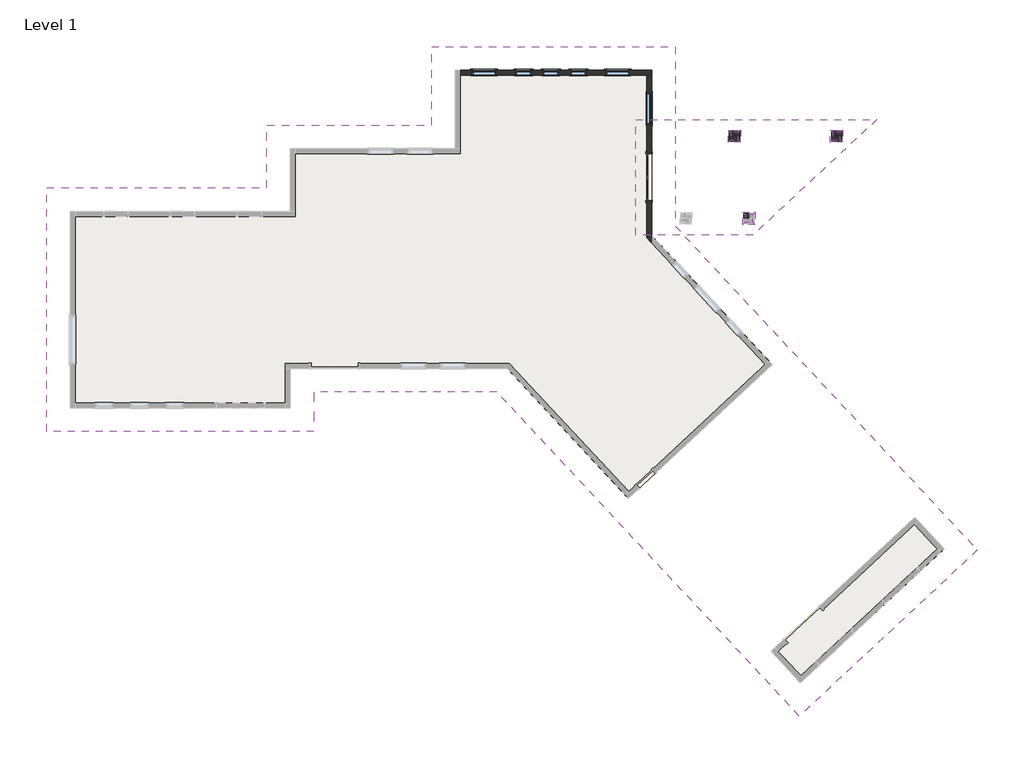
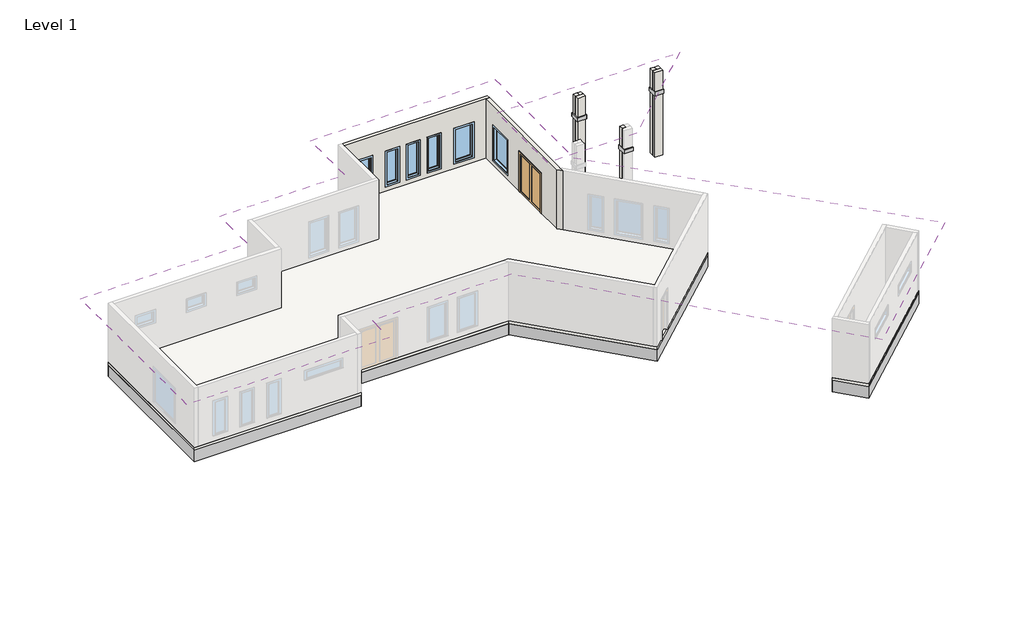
# One storey, part 2 of 2: 19 proxies, 12 walls, 6 windows, 2 roofs, 1 door, 1 slab.
"""IFC4 building model written with IfcOpenShell, lengths in millimetres."""

from ifc_helpers import new_model, si_unit, frame, origin, place, context, project, spatial, polyline, outline, extrude, faceted_brep, transform, mapped, element, save
from components import door_ae1b4af6, window_8ec664a6, window_e6bbc231, window_97fb18ba

model = new_model("IFC4")

# Units and contexts
model_context = context("Model", 3, world=origin())
ifc_project = project(units=[si_unit("LENGTHUNIT", "METRE", prefix="MILLI")], contexts=[model_context])

# Site, building, storey
site = spatial("IfcSite", under=ifc_project)
building = spatial("IfcBuilding", under=site)
storey = spatial("IfcBuildingStorey", under=building, Name="Level 1", Elevation=0.0)

# Proxies
placement = place(None, origin())
element("IfcBuildingElementProxy", 1, Name="Reveals", at=placement, inside=storey, context=model_context, shape_type="SweptSolid", body=[
    extrude(outline(polyline([(26090.8450389, 7110.4125), (26182.9200389, 7202.4875), (26478.1950389, 7202.4875), (26570.2700389, 7110.4125), (26090.8450389, 7110.4125)])), frame((0.0, 0.0, 2438.4), z_axis=(0.0, 0.0, 1.0), x_axis=(1.0, 0.0, 0.0)), (0.0, 0.0, 1.0), 203.2),
])
element("IfcBuildingElementProxy", 2, Name="Reveals", at=placement, inside=storey, context=model_context, shape_type="SweptSolid", body=[
    extrude(outline(polyline([(26570.2700389, 7110.4125), (26478.1950389, 7202.4875), (26478.1950389, 7497.7625), (26570.2700389, 7589.8375), (26570.2700389, 7110.4125)])), frame((0.0, 0.0, 2438.4), z_axis=(0.0, 0.0, 1.0), x_axis=(1.0, 0.0, 0.0)), (0.0, 0.0, 1.0), 203.2),
])
element("IfcBuildingElementProxy", 3, Name="Reveals", at=placement, inside=storey, context=model_context, shape_type="SweptSolid", body=[
    extrude(outline(polyline([(26570.2700389, 7589.8375), (26478.1950389, 7497.7625), (26182.9200389, 7497.7625), (26090.8450389, 7589.8375), (26570.2700389, 7589.8375)])), frame((0.0, 0.0, 2438.4), z_axis=(0.0, 0.0, 1.0), x_axis=(1.0, 0.0, 0.0)), (0.0, 0.0, 1.0), 203.2),
])
element("IfcBuildingElementProxy", 4, Name="Reveals", at=placement, inside=storey, context=model_context, shape_type="SweptSolid", body=[
    extrude(outline(polyline([(26182.9200389, 7202.4875), (26090.8450389, 7110.4125), (26090.8450389, 7589.8375), (26182.9200389, 7497.7625), (26182.9200389, 7202.4875)])), frame((0.0, 0.0, 2438.4), z_axis=(0.0, 0.0, 1.0), x_axis=(1.0, 0.0, 0.0)), (0.0, 0.0, 1.0), 203.2),
])
element("IfcBuildingElementProxy", 5, Name="Reveals", at=placement, inside=storey, context=model_context, shape_type="SweptSolid", body=[
    extrude(outline(polyline([(29494.5250352, 10301.2875), (29586.6000352, 10393.3625), (29881.8750352, 10393.3625), (29973.9500352, 10301.2875), (29494.5250352, 10301.2875)])), frame((0.0, 0.0, 2438.4), z_axis=(0.0, 0.0, 1.0), x_axis=(1.0, 0.0, 0.0)), (0.0, 0.0, 1.0), 203.2),
])
element("IfcBuildingElementProxy", 6, Name="Reveals", at=placement, inside=storey, context=model_context, shape_type="SweptSolid", body=[
    extrude(outline(polyline([(29973.9500352, 10301.2875), (29881.8750352, 10393.3625), (29881.8750352, 10688.6375), (29973.9500352, 10780.7125), (29973.9500352, 10301.2875)])), frame((0.0, 0.0, 2438.4), z_axis=(0.0, 0.0, 1.0), x_axis=(1.0, 0.0, 0.0)), (0.0, 0.0, 1.0), 203.2),
])
element("IfcBuildingElementProxy", 7, Name="Reveals", at=placement, inside=storey, context=model_context, shape_type="SweptSolid", body=[
    extrude(outline(polyline([(29973.9500352, 10780.7125), (29881.8750352, 10688.6375), (29586.6000352, 10688.6375), (29494.5250352, 10780.7125), (29973.9500352, 10780.7125)])), frame((0.0, 0.0, 2438.4), z_axis=(0.0, 0.0, 1.0), x_axis=(1.0, 0.0, 0.0)), (0.0, 0.0, 1.0), 203.2),
])
element("IfcBuildingElementProxy", 8, Name="Reveals", at=placement, inside=storey, context=model_context, shape_type="SweptSolid", body=[
    extrude(outline(polyline([(29586.6000352, 10393.3625), (29494.5250352, 10301.2875), (29494.5250352, 10780.7125), (29586.6000352, 10688.6375), (29586.6000352, 10393.3625)])), frame((0.0, 0.0, 2438.4), z_axis=(0.0, 0.0, 1.0), x_axis=(1.0, 0.0, 0.0)), (0.0, 0.0, 1.0), 203.2),
])
element("IfcBuildingElementProxy", 9, Name="Reveals", at=placement, inside=storey, context=model_context, shape_type="SweptSolid", body=[
    extrude(outline(polyline([(25532.1250352, 10301.2875), (25624.2000352, 10393.3625), (25919.4750352, 10393.3625), (26011.5500352, 10301.2875), (25532.1250352, 10301.2875)])), frame((0.0, 0.0, 2438.4), z_axis=(0.0, 0.0, 1.0), x_axis=(1.0, 0.0, 0.0)), (0.0, 0.0, 1.0), 203.2),
])
element("IfcBuildingElementProxy", 10, Name="Reveals", at=placement, inside=storey, context=model_context, shape_type="SweptSolid", body=[
    extrude(outline(polyline([(26011.5500352, 10301.2875), (25919.4750352, 10393.3625), (25919.4750352, 10688.6375), (26011.5500352, 10780.7125), (26011.5500352, 10301.2875)])), frame((0.0, 0.0, 2438.4), z_axis=(0.0, 0.0, 1.0), x_axis=(1.0, 0.0, 0.0)), (0.0, 0.0, 1.0), 203.2),
])
element("IfcBuildingElementProxy", 11, Name="Reveals", at=placement, inside=storey, context=model_context, shape_type="SweptSolid", body=[
    extrude(outline(polyline([(26011.5500352, 10780.7125), (25919.4750352, 10688.6375), (25624.2000352, 10688.6375), (25532.1250352, 10780.7125), (26011.5500352, 10780.7125)])), frame((0.0, 0.0, 2438.4), z_axis=(0.0, 0.0, 1.0), x_axis=(1.0, 0.0, 0.0)), (0.0, 0.0, 1.0), 203.2),
])
element("IfcBuildingElementProxy", 12, Name="Reveals", at=placement, inside=storey, context=model_context, shape_type="SweptSolid", body=[
    extrude(outline(polyline([(25624.2000352, 10393.3625), (25532.1250352, 10301.2875), (25532.1250352, 10780.7125), (25624.2000352, 10688.6375), (25624.2000352, 10393.3625)])), frame((0.0, 0.0, 2438.4), z_axis=(0.0, 0.0, 1.0), x_axis=(1.0, 0.0, 0.0)), (0.0, 0.0, 1.0), 203.2),
])
element("IfcBuildingElementProxy", 13, Name="Thickened 24\" x 12\"", ObjectType="Thickened 24\" x 12\"", at=placement, inside=storey, context=model_context, shape_type="Brep", body=[
    faceted_brep([(22555.2, 6683.5665602, -762.0), (22555.2, 6683.5665602, -152.4), (21945.6, 6443.4387342, -152.4), (22250.4, 6563.5026472, -457.2), (22250.4, 6563.5026472, -762.0), (22555.2, 13106.4, -762.0), (22250.4, 12801.6, -762.0), (22250.4, 12801.6, -457.2), (21945.6, 12496.8, -152.4), (22555.2, 13106.4, -152.4)], [[[0, 1, 2, 3, 4]], [[5, 6, 7, 8, 9]], [[1, 0, 5, 9]], [[2, 1, 9, 8]], [[4, 3, 7, 6]], [[0, 4, 6, 5]], [[3, 2, 8, 7]]]),
])
element("IfcBuildingElementProxy", 14, Name="Thickened 24\" x 12\"", ObjectType="Thickened 24\" x 12\"", at=placement, inside=storey, context=model_context, shape_type="Brep", body=[
    faceted_brep([(8534.4, 1524.0, -762.0), (8534.4, 1524.0, -152.4), (7924.8, 2133.6, -152.4), (8229.6, 1828.8, -457.2), (8229.6, 1828.8, -762.0), (16953.0353139, 1524.0, -762.0), (17085.5661258, 1828.8, -762.0), (17085.5661258, 1828.8, -457.2), (17218.0969376, 2133.6, -152.4), (16953.0353139, 1524.0, -152.4)], [[[0, 1, 2, 3, 4]], [[5, 6, 7, 8, 9]], [[1, 0, 5, 9]], [[2, 1, 9, 8]], [[3, 2, 8, 7]], [[4, 3, 7, 6]], [[0, 4, 6, 5]]]),
    faceted_brep([(8534.4, 0.0, -762.0), (8229.6, 304.8, -762.0), (8229.6, 304.8, -457.2), (7924.8, 609.6, -152.4), (8534.4, 0.0, -152.4), (0.0, 0.0, -152.4), (0.0, 0.0, -762.0), (609.6, 609.6, -152.4), (304.8, 304.8, -457.2), (304.8, 304.8, -762.0), (0.0, 7620.0, -762.0), (0.0, 7620.0, -152.4), (609.6, 7010.4, -152.4), (304.8, 7315.2, -457.2), (304.8, 7315.2, -762.0)], [[[0, 1, 2, 3, 4]], [[5, 6, 0, 4]], [[7, 5, 4, 3]], [[8, 7, 3, 2]], [[9, 8, 2, 1]], [[6, 9, 1, 0]], [[10, 11, 12, 13, 14]], [[11, 10, 6, 5]], [[12, 11, 5, 7]], [[13, 12, 7, 8]], [[14, 13, 8, 9]], [[10, 14, 9, 6]]]),
])
element("IfcBuildingElementProxy", 15, Name="Thickened 24\" x 12\"", ObjectType="Thickened 24\" x 12\"", at=placement, inside=storey, context=model_context, shape_type="Brep", body=[
    faceted_brep([(8534.4, 0.0, -762.0), (8534.4, 0.0, -152.4), (7924.8, 609.6, -152.4), (8229.6, 304.8, -457.2), (8229.6, 304.8, -762.0), (8534.4, 1524.0, -762.0), (8229.6, 1828.8, -762.0), (8229.6, 1828.8, -457.2), (7924.8, 2133.6, -152.4), (8534.4, 1524.0, -152.4)], [[[0, 1, 2, 3, 4]], [[5, 6, 7, 8, 9]], [[1, 0, 5, 9]], [[2, 1, 9, 8]], [[3, 2, 8, 7]], [[4, 3, 7, 6]], [[0, 4, 6, 5]]]),
])
element("IfcBuildingElementProxy", 16, Name="Thickened 24\" x 12\"", ObjectType="Thickened 24\" x 12\"", at=placement, inside=storey, context=model_context, shape_type="Brep", body=[
    faceted_brep([(22555.2, 13106.4, -762.0), (22555.2, 13106.4, -152.4), (21945.6, 12496.8, -152.4), (22250.4, 12801.6, -457.2), (22250.4, 12801.6, -762.0), (14935.2, 13106.4, -762.0), (14935.2, 13106.4, -152.4), (15544.8, 12496.8, -152.4), (15240.0, 12801.6, -457.2), (15240.0, 12801.6, -762.0), (14935.2, 10058.4, -762.0), (14935.2, 10058.4, -152.4), (15544.8, 9448.8, -152.4), (15240.0, 9753.6, -457.2), (15240.0, 9753.6, -762.0), (8534.4, 10058.4, -762.0), (8534.4, 10058.4, -152.4), (9144.0, 9448.8, -152.4), (8839.2, 9753.6, -457.2), (8839.2, 9753.6, -762.0), (8534.4, 7620.0, -762.0), (8534.4, 7620.0, -152.4), (9144.0, 7010.4, -152.4), (8839.2, 7315.2, -457.2), (8839.2, 7315.2, -762.0), (0.0, 7620.0, -762.0), (304.8, 7315.2, -762.0), (304.8, 7315.2, -457.2), (609.6, 7010.4, -152.4), (0.0, 7620.0, -152.4)], [[[0, 1, 2, 3, 4]], [[1, 0, 5, 6]], [[2, 1, 6, 7]], [[3, 2, 7, 8]], [[4, 3, 8, 9]], [[0, 4, 9, 5]], [[6, 5, 10, 11]], [[7, 6, 11, 12]], [[8, 7, 12, 13]], [[9, 8, 13, 14]], [[5, 9, 14, 10]], [[11, 10, 15, 16]], [[12, 11, 16, 17]], [[13, 12, 17, 18]], [[14, 13, 18, 19]], [[10, 14, 19, 15]], [[16, 15, 20, 21]], [[17, 16, 21, 22]], [[18, 17, 22, 23]], [[19, 18, 23, 24]], [[15, 19, 24, 20]], [[25, 26, 27, 28, 29]], [[21, 20, 25, 29]], [[22, 21, 29, 28]], [[23, 22, 28, 27]], [[24, 23, 27, 26]], [[20, 24, 26, 25]]]),
])
element("IfcBuildingElementProxy", 17, Name="Thickened 24\" x 12\"", ObjectType="Thickened 24\" x 12\"", at=placement, inside=storey, context=model_context, shape_type="Brep", body=[
    faceted_brep([(33900.9652465, -5483.2770815, -762.0), (33900.9652465, -5483.2770815, -152.4), (33039.3858297, -5453.1900653, -152.4), (33470.1755381, -5468.2335734, -457.2), (33470.1755381, -5468.2335734, -762.0), (32758.3596644, -4257.9826073, -762.0), (32758.3596644, -4257.9826073, -152.4), (32728.2726482, -5119.5620241, -152.4), (32743.3161563, -4688.7723157, -457.2), (32743.3161563, -4688.7723157, -762.0), (27188.3846368, -9452.06835, -762.0), (27619.1743452, -9467.1118582, -762.0), (27619.1743452, -9467.1118582, -457.2), (28049.9640536, -9482.1553663, -152.4), (27188.3846368, -9452.06835, -152.4)], [[[0, 1, 2, 3, 4]], [[1, 0, 5, 6]], [[2, 1, 6, 7]], [[3, 2, 7, 8]], [[4, 3, 8, 9]], [[0, 4, 9, 5]], [[10, 11, 12, 13, 14]], [[6, 5, 10, 14]], [[7, 6, 14, 13]], [[8, 7, 13, 12]], [[9, 8, 12, 11]], [[5, 9, 11, 10]]]),
])
element("IfcBuildingElementProxy", 18, Name="Thickened 24\" x 12\"", ObjectType="Thickened 24\" x 12\"", at=placement, inside=storey, context=model_context, shape_type="Brep", body=[
    faceted_brep([(27188.3846368, -9452.06835, -762.0), (27188.3846368, -9452.06835, -152.4), (28049.9640536, -9482.1553663, -152.4), (27619.1743452, -9467.1118582, -457.2), (27619.1743452, -9467.1118582, -762.0), (28330.9902189, -10677.3628242, -762.0), (28330.9902189, -10677.3628242, -152.4), (28361.0772351, -9815.7834074, -152.4), (28346.033727, -10246.5731158, -457.2), (28346.033727, -10246.5731158, -762.0), (33900.9652465, -5483.2770815, -762.0), (33470.1755381, -5468.2335734, -762.0), (33470.1755381, -5468.2335734, -457.2), (33039.3858297, -5453.1900653, -152.4), (33900.9652465, -5483.2770815, -152.4)], [[[0, 1, 2, 3, 4]], [[1, 0, 5, 6]], [[2, 1, 6, 7]], [[3, 2, 7, 8]], [[4, 3, 8, 9]], [[0, 4, 9, 5]], [[10, 11, 12, 13, 14]], [[6, 5, 10, 14]], [[7, 6, 14, 13]], [[8, 7, 13, 12]], [[9, 8, 12, 11]], [[5, 9, 11, 10]]]),
])
element("IfcBuildingElementProxy", 19, Name="Thickened 24\" x 12\"", ObjectType="Thickened 24\" x 12\"", at=placement, inside=storey, context=model_context, shape_type="Brep", body=[
    faceted_brep([(22555.2, 6683.5665602, -762.0), (22250.4, 6563.5026472, -762.0), (22250.4, 6563.5026472, -457.2), (21945.6, 6443.4387342, -152.4), (22555.2, 6683.5665602, -152.4), (27229.4045746, 1671.0958301, -152.4), (27229.4045746, 1671.0958301, -762.0), (26367.8251578, 1701.1828463, -152.4), (26798.6148662, 1686.1393382, -457.2), (26798.6148662, 1686.1393382, -762.0), (21659.429547, -3522.9899126, -152.4), (21659.429547, -3522.9899126, -762.0), (21689.5165632, -2661.4104958, -152.4), (21674.4730551, -3092.2002042, -457.2), (21674.4730551, -3092.2002042, -762.0), (16953.0353139, 1524.0, -762.0), (16953.0353139, 1524.0, -152.4), (17218.0969376, 2133.6, -152.4), (17085.5661258, 1828.8, -457.2), (17085.5661258, 1828.8, -762.0)], [[[0, 1, 2, 3, 4]], [[5, 6, 0, 4]], [[7, 5, 4, 3]], [[8, 7, 3, 2]], [[9, 8, 2, 1]], [[6, 9, 1, 0]], [[10, 11, 6, 5]], [[12, 10, 5, 7]], [[13, 12, 7, 8]], [[14, 13, 8, 9]], [[11, 14, 9, 6]], [[15, 16, 17, 18, 19]], [[16, 15, 11, 10]], [[17, 16, 10, 12]], [[18, 17, 12, 13]], [[19, 18, 13, 14]], [[15, 19, 14, 11]]]),
])

# Door
door_shape = door_ae1b4af6(model_context)
element("IfcDoor", 20, ObjectType="Double-Glass 1 : 72\" x 84\"", at=placement, inside=storey, context=model_context, shape_type="MappedRepresentation", body=[
    mapped(door_shape, transform((22460.74375, 8945.5625, 0.0), x_axis=(0.0, 1.0, 0.0), y_axis=(-1.0, 0.0, 0.0), z_axis=(0.0, 0.0, 1.0))),
])

# Roofs
element("IfcRoof", 21, ObjectType="Generic - 12\"", at=placement, inside=storey, context=model_context, shape_type="SweptSolid", body=[
    extrude(outline(polyline([(16555.4428782, 609.6), (9448.8, 609.6), (9448.8, -914.4), (-914.4, -914.4), (-914.4, 8534.4), (7620.0, 8534.4), (7620.0, 10972.8), (14020.8, 10972.8), (14020.8, 14020.8), (23469.6, 14020.8), (23469.6, 7049.6530157), (35196.2745504, -5525.6658448), (28285.8596945, -11969.7319494), (16555.4428782, 609.6)])), frame((0.0, 0.0, 3200.4), z_axis=(0.0, 0.0, 1.0), x_axis=(1.0, 0.0, 0.0)), (0.0, 0.0, 1.0), 304.8),
])
element("IfcRoof", 22, ObjectType="Generic - 12\"", at=placement, inside=storey, context=model_context, shape_type="SweptSolid", body=[
    extrude(outline(polyline([(21945.6, 6710.2825037), (21945.6, 11180.8424963), (31288.3056898, 11180.8424963), (26494.2170375, 6710.2825037), (21945.6, 6710.2825037)])), frame((0.0, 0.0, 3657.6), z_axis=(0.0, 0.0, 1.0), x_axis=(1.0, 0.0, 0.0)), (0.0, 0.0, 1.0), 304.8),
])

# Slab
element("IfcSlab", 23, ObjectType="Concrete - 6\"", at=placement, inside=storey, context=model_context, shape_type="SweptSolid", body=[
    extrude(outline(polyline([(16953.0353139, 1524.0), (8534.4, 1524.0), (8534.4, 0.0), (0.0, 0.0), (0.0, 7620.0), (8534.4, 7620.0), (8534.4, 10058.4), (14935.2, 10058.4), (14935.2, 13106.4), (22555.2, 13106.4), (22555.2, 6683.5665602), (27229.4045746, 1671.0958301), (21659.429547, -3522.9899126), (16953.0353139, 1524.0)])), frame((0.0, 0.0, -152.4), z_axis=(0.0, 0.0, 1.0), x_axis=(1.0, 0.0, 0.0)), (0.0, 0.0, 1.0), 152.4),
    extrude(outline(polyline([(27188.3846368, -9452.06835), (32758.3596644, -4257.9826073), (33900.9652465, -5483.2770815), (28330.9902189, -10677.3628242), (27188.3846368, -9452.06835)])), frame((0.0, 0.0, -152.4), z_axis=(0.0, 0.0, 1.0), x_axis=(1.0, 0.0, 0.0)), (0.0, 0.0, 1.0), 152.4),
])

# Walls
element("IfcWall", 24, ObjectType="Column - 8\" Concrete", at=placement, inside=storey, context=model_context, shape_type="Brep", body=[
    faceted_brep([(26335.3200389, 7548.5625, -914.4), (26132.1200389, 7548.5625, -914.4), (26132.1200389, 7548.5625, 2438.4), (26335.3200389, 7548.5625, 2438.4), (26132.1200389, 7548.5625, 3657.6), (26335.3200389, 7548.5625, 3657.6), (26335.3200389, 7548.5625, 2641.6), (26132.1200389, 7548.5625, 2641.6), (26132.1200389, 7354.8875, -914.4), (26325.7950389, 7354.8875, -914.4), (26335.3200389, 7354.8875, -914.4), (26335.3200389, 7354.8875, 3657.6), (26325.7950389, 7354.8875, 3657.6), (26132.1200389, 7354.8875, 3657.6), (26132.1200389, 7354.8875, 2641.6), (26182.9200389, 7354.8875, 2641.6), (26182.9200389, 7354.8875, 2438.4), (26132.1200389, 7354.8875, 2438.4), (26335.3200389, 7497.7625, 2438.4), (26335.3200389, 7497.7625, 2641.6), (26182.9200389, 7497.7625, 2641.6), (26182.9200389, 7497.7625, 2438.4)], [[[0, 1, 2, 3]], [[4, 5, 6, 7]], [[8, 9, 10, 11, 12, 13, 14, 15, 16, 17]], [[1, 0, 10, 9, 8]], [[11, 10, 0, 3, 18, 19, 6, 5]], [[19, 20, 15, 14, 7, 6]], [[16, 21, 18, 3, 2, 17]], [[21, 20, 19, 18]], [[1, 8, 17, 2]], [[13, 4, 7, 14]], [[20, 21, 16, 15]], [[5, 4, 13, 12, 11]]]),
])
element("IfcWall", 25, ObjectType="Column - 8\" Concrete", at=placement, inside=storey, context=model_context, shape_type="SweptSolid", body=[
    extrude(outline(polyline([(-914.4, 26325.7950389), (3657.6, 26325.7950389), (3657.6, 26132.1200389), (2641.6, 26132.1200389), (2641.6, 26182.9200389), (2438.4, 26182.9200389), (2438.4, 26132.1200389), (-914.4, 26132.1200389), (-914.4, 26325.7950389)])), frame((0.0, 7345.3625, 0.0), z_axis=(0.0, 1.0, 0.0), x_axis=(0.0, 0.0, 1.0)), (0.0, 0.0, 1.0), 9.525),
])
element("IfcWall", 26, ObjectType="Column - 8\" Concrete", at=placement, inside=storey, context=model_context, shape_type="Brep", body=[
    faceted_brep([(29535.8000352, 10342.5625, -914.4), (29932.6750352, 10342.5625, -914.4), (29932.6750352, 10342.5625, 2438.4), (29535.8000352, 10342.5625, 2438.4), (29932.6750352, 10342.5625, 3657.6), (29535.8000352, 10342.5625, 3657.6), (29535.8000352, 10342.5625, 2641.6), (29932.6750352, 10342.5625, 2641.6), (29932.6750352, 10536.2375, -914.4), (29739.0000352, 10536.2375, -914.4), (29729.4750352, 10536.2375, -914.4), (29535.8000352, 10536.2375, -914.4), (29535.8000352, 10536.2375, 2438.4), (29586.6000352, 10536.2375, 2438.4), (29586.6000352, 10536.2375, 2641.6), (29535.8000352, 10536.2375, 2641.6), (29535.8000352, 10536.2375, 3657.6), (29729.4750352, 10536.2375, 3657.6), (29739.0000352, 10536.2375, 3657.6), (29932.6750352, 10536.2375, 3657.6), (29932.6750352, 10536.2375, 2641.6), (29881.8750352, 10536.2375, 2641.6), (29881.8750352, 10536.2375, 2438.4), (29932.6750352, 10536.2375, 2438.4), (29586.6000352, 10393.3625, 2641.6), (29586.6000352, 10393.3625, 2438.4), (29881.8750352, 10393.3625, 2438.4), (29881.8750352, 10393.3625, 2641.6)], [[[0, 1, 2, 3]], [[4, 5, 6, 7]], [[8, 9, 10, 11, 12, 13, 14, 15, 16, 17, 18, 19, 20, 21, 22, 23]], [[1, 0, 11, 10, 9, 8]], [[1, 8, 23, 2]], [[19, 4, 7, 20]], [[24, 25, 26, 27]], [[27, 26, 22, 21]], [[11, 0, 3, 12]], [[5, 16, 15, 6]], [[24, 27, 21, 20, 7, 6, 15, 14]], [[26, 25, 13, 12, 3, 2, 23, 22]], [[25, 24, 14, 13]], [[5, 4, 19, 18, 17, 16]]]),
])
element("IfcWall", 27, ObjectType="Column - 8\" Concrete", at=placement, inside=storey, context=model_context, shape_type="Brep", body=[
    faceted_brep([(29932.6750352, 10536.2375, -914.4), (29932.6750352, 10739.4375, -914.4), (29932.6750352, 10739.4375, 2438.4), (29932.6750352, 10536.2375, 2438.4), (29932.6750352, 10739.4375, 3657.6), (29932.6750352, 10536.2375, 3657.6), (29932.6750352, 10536.2375, 2641.6), (29932.6750352, 10739.4375, 2641.6), (29739.0000352, 10739.4375, -914.4), (29739.0000352, 10545.7625, -914.4), (29739.0000352, 10536.2375, -914.4), (29739.0000352, 10536.2375, 3657.6), (29739.0000352, 10545.7625, 3657.6), (29739.0000352, 10739.4375, 3657.6), (29739.0000352, 10739.4375, 2641.6), (29739.0000352, 10688.6375, 2641.6), (29739.0000352, 10688.6375, 2438.4), (29739.0000352, 10739.4375, 2438.4), (29881.8750352, 10536.2375, 2438.4), (29881.8750352, 10536.2375, 2641.6), (29881.8750352, 10688.6375, 2641.6), (29881.8750352, 10688.6375, 2438.4)], [[[0, 1, 2, 3]], [[4, 5, 6, 7]], [[8, 9, 10, 11, 12, 13, 14, 15, 16, 17]], [[1, 0, 10, 9, 8]], [[11, 10, 0, 3, 18, 19, 6, 5]], [[1, 8, 17, 2]], [[13, 4, 7, 14]], [[19, 20, 15, 14, 7, 6]], [[16, 21, 18, 3, 2, 17]], [[21, 20, 19, 18]], [[20, 21, 16, 15]], [[5, 4, 13, 12, 11]]]),
])
element("IfcWall", 28, ObjectType="Column - 8\" Concrete", at=placement, inside=storey, context=model_context, shape_type="Brep", body=[
    faceted_brep([(29739.0000352, 10739.4375, -914.4), (29535.8000352, 10739.4375, -914.4), (29535.8000352, 10739.4375, 2438.4), (29739.0000352, 10739.4375, 2438.4), (29535.8000352, 10739.4375, 3657.6), (29739.0000352, 10739.4375, 3657.6), (29739.0000352, 10739.4375, 2641.6), (29535.8000352, 10739.4375, 2641.6), (29535.8000352, 10545.7625, -914.4), (29729.4750352, 10545.7625, -914.4), (29739.0000352, 10545.7625, -914.4), (29739.0000352, 10545.7625, 3657.6), (29729.4750352, 10545.7625, 3657.6), (29535.8000352, 10545.7625, 3657.6), (29535.8000352, 10545.7625, 2641.6), (29586.6000352, 10545.7625, 2641.6), (29586.6000352, 10545.7625, 2438.4), (29535.8000352, 10545.7625, 2438.4), (29739.0000352, 10688.6375, 2438.4), (29739.0000352, 10688.6375, 2641.6), (29586.6000352, 10688.6375, 2641.6), (29586.6000352, 10688.6375, 2438.4)], [[[0, 1, 2, 3]], [[4, 5, 6, 7]], [[8, 9, 10, 11, 12, 13, 14, 15, 16, 17]], [[1, 0, 10, 9, 8]], [[11, 10, 0, 3, 18, 19, 6, 5]], [[19, 20, 15, 14, 7, 6]], [[16, 21, 18, 3, 2, 17]], [[21, 20, 19, 18]], [[1, 8, 17, 2]], [[13, 4, 7, 14]], [[20, 21, 16, 15]], [[5, 4, 13, 12, 11]]]),
])
element("IfcWall", 29, ObjectType="Column - 8\" Concrete", at=placement, inside=storey, context=model_context, shape_type="SweptSolid", body=[
    extrude(outline(polyline([(-914.4, 29729.4750352), (3657.6, 29729.4750352), (3657.6, 29535.8000352), (2641.6, 29535.8000352), (2641.6, 29586.6000352), (2438.4, 29586.6000352), (2438.4, 29535.8000352), (-914.4, 29535.8000352), (-914.4, 29729.4750352)])), frame((0.0, 10536.2375, 0.0), z_axis=(0.0, 1.0, 0.0), x_axis=(0.0, 0.0, 1.0)), (0.0, 0.0, 1.0), 9.525),
])
element("IfcWall", 30, ObjectType="Column - 8\" Concrete", at=placement, inside=storey, context=model_context, shape_type="Brep", body=[
    faceted_brep([(25573.4000352, 10342.5625, -914.4), (25970.2750352, 10342.5625, -914.4), (25970.2750352, 10342.5625, 2438.4), (25573.4000352, 10342.5625, 2438.4), (25970.2750352, 10342.5625, 3657.6), (25573.4000352, 10342.5625, 3657.6), (25573.4000352, 10342.5625, 2641.6), (25970.2750352, 10342.5625, 2641.6), (25970.2750352, 10536.2375, -914.4), (25776.6000352, 10536.2375, -914.4), (25767.0750352, 10536.2375, -914.4), (25573.4000352, 10536.2375, -914.4), (25573.4000352, 10536.2375, 2438.4), (25624.2000352, 10536.2375, 2438.4), (25624.2000352, 10536.2375, 2641.6), (25573.4000352, 10536.2375, 2641.6), (25573.4000352, 10536.2375, 3657.6), (25767.0750352, 10536.2375, 3657.6), (25776.6000352, 10536.2375, 3657.6), (25970.2750352, 10536.2375, 3657.6), (25970.2750352, 10536.2375, 2641.6), (25919.4750352, 10536.2375, 2641.6), (25919.4750352, 10536.2375, 2438.4), (25970.2750352, 10536.2375, 2438.4), (25624.2000352, 10393.3625, 2641.6), (25624.2000352, 10393.3625, 2438.4), (25919.4750352, 10393.3625, 2438.4), (25919.4750352, 10393.3625, 2641.6)], [[[0, 1, 2, 3]], [[4, 5, 6, 7]], [[8, 9, 10, 11, 12, 13, 14, 15, 16, 17, 18, 19, 20, 21, 22, 23]], [[1, 0, 11, 10, 9, 8]], [[1, 8, 23, 2]], [[19, 4, 7, 20]], [[24, 25, 26, 27]], [[27, 26, 22, 21]], [[11, 0, 3, 12]], [[5, 16, 15, 6]], [[24, 27, 21, 20, 7, 6, 15, 14]], [[26, 25, 13, 12, 3, 2, 23, 22]], [[25, 24, 14, 13]], [[5, 4, 19, 18, 17, 16]]]),
])
element("IfcWall", 31, ObjectType="Column - 8\" Concrete", at=placement, inside=storey, context=model_context, shape_type="Brep", body=[
    faceted_brep([(25970.2750352, 10536.2375, -914.4), (25970.2750352, 10739.4375, -914.4), (25970.2750352, 10739.4375, 2438.4), (25970.2750352, 10536.2375, 2438.4), (25970.2750352, 10739.4375, 3657.6), (25970.2750352, 10536.2375, 3657.6), (25970.2750352, 10536.2375, 2641.6), (25970.2750352, 10739.4375, 2641.6), (25776.6000352, 10739.4375, -914.4), (25776.6000352, 10545.7625, -914.4), (25776.6000352, 10536.2375, -914.4), (25776.6000352, 10536.2375, 3657.6), (25776.6000352, 10545.7625, 3657.6), (25776.6000352, 10739.4375, 3657.6), (25776.6000352, 10739.4375, 2641.6), (25776.6000352, 10688.6375, 2641.6), (25776.6000352, 10688.6375, 2438.4), (25776.6000352, 10739.4375, 2438.4), (25919.4750352, 10536.2375, 2438.4), (25919.4750352, 10536.2375, 2641.6), (25919.4750352, 10688.6375, 2641.6), (25919.4750352, 10688.6375, 2438.4)], [[[0, 1, 2, 3]], [[4, 5, 6, 7]], [[8, 9, 10, 11, 12, 13, 14, 15, 16, 17]], [[1, 0, 10, 9, 8]], [[11, 10, 0, 3, 18, 19, 6, 5]], [[1, 8, 17, 2]], [[13, 4, 7, 14]], [[19, 20, 15, 14, 7, 6]], [[16, 21, 18, 3, 2, 17]], [[21, 20, 19, 18]], [[20, 21, 16, 15]], [[5, 4, 13, 12, 11]]]),
])
element("IfcWall", 32, ObjectType="Column - 8\" Concrete", at=placement, inside=storey, context=model_context, shape_type="Brep", body=[
    faceted_brep([(25776.6000352, 10739.4375, -914.4), (25573.4000352, 10739.4375, -914.4), (25573.4000352, 10739.4375, 2438.4), (25776.6000352, 10739.4375, 2438.4), (25573.4000352, 10739.4375, 3657.6), (25776.6000352, 10739.4375, 3657.6), (25776.6000352, 10739.4375, 2641.6), (25573.4000352, 10739.4375, 2641.6), (25573.4000352, 10545.7625, -914.4), (25767.0750352, 10545.7625, -914.4), (25776.6000352, 10545.7625, -914.4), (25776.6000352, 10545.7625, 3657.6), (25767.0750352, 10545.7625, 3657.6), (25573.4000352, 10545.7625, 3657.6), (25573.4000352, 10545.7625, 2641.6), (25624.2000352, 10545.7625, 2641.6), (25624.2000352, 10545.7625, 2438.4), (25573.4000352, 10545.7625, 2438.4), (25776.6000352, 10688.6375, 2438.4), (25776.6000352, 10688.6375, 2641.6), (25624.2000352, 10688.6375, 2641.6), (25624.2000352, 10688.6375, 2438.4)], [[[0, 1, 2, 3]], [[4, 5, 6, 7]], [[8, 9, 10, 11, 12, 13, 14, 15, 16, 17]], [[1, 0, 10, 9, 8]], [[11, 10, 0, 3, 18, 19, 6, 5]], [[19, 20, 15, 14, 7, 6]], [[16, 21, 18, 3, 2, 17]], [[21, 20, 19, 18]], [[1, 8, 17, 2]], [[13, 4, 7, 14]], [[20, 21, 16, 15]], [[5, 4, 13, 12, 11]]]),
])
element("IfcWall", 33, ObjectType="Column - 8\" Concrete", at=placement, inside=storey, context=model_context, shape_type="SweptSolid", body=[
    extrude(outline(polyline([(-914.4, 25767.0750352), (3657.6, 25767.0750352), (3657.6, 25573.4000352), (2641.6, 25573.4000352), (2641.6, 25624.2000352), (2438.4, 25624.2000352), (2438.4, 25573.4000352), (-914.4, 25573.4000352), (-914.4, 25767.0750352)])), frame((0.0, 10536.2375, 0.0), z_axis=(0.0, 1.0, 0.0), x_axis=(0.0, 0.0, 1.0)), (0.0, 0.0, 1.0), 9.525),
])
element("IfcWall", 34, ObjectType="Generic - 8\" Concrete", at=placement, inside=storey, context=model_context, shape_type="Brep", body=[
    faceted_brep([(15128.875, 12912.725, 0.0), (22361.525, 12912.725, 0.0), (22555.2, 12912.725, 0.0), (22555.2, 12912.725, 3200.4), (22361.525, 12912.725, 3200.4), (15128.875, 12912.725, 3200.4), (16514.7625, 12912.725, 2133.6), (16514.7625, 12912.725, 304.8), (15600.3625, 12912.725, 304.8), (15600.3625, 12912.725, 2133.6), (21696.3625, 12912.725, 2133.6), (21696.3625, 12912.725, 304.8), (20781.9625, 12912.725, 304.8), (20781.9625, 12912.725, 2133.6), (20019.9625, 12912.725, 2133.6), (20019.9625, 12912.725, 304.8), (19410.3625, 12912.725, 304.8), (19410.3625, 12912.725, 2133.6), (17886.3625, 12912.725, 2133.6), (17886.3625, 12912.725, 304.8), (17276.7625, 12912.725, 304.8), (17276.7625, 12912.725, 2133.6), (18953.1625, 12912.725, 2133.6), (18953.1625, 12912.725, 304.8), (18343.5625, 12912.725, 304.8), (18343.5625, 12912.725, 2133.6), (22555.2, 13106.4, 0.0), (15128.875, 13106.4, 0.0), (15128.875, 13106.4, 3200.4), (22555.2, 13106.4, 3200.4), (16514.7625, 13106.4, 2133.6), (15600.3625, 13106.4, 2133.6), (15600.3625, 13106.4, 304.8), (16514.7625, 13106.4, 304.8), (21696.3625, 13106.4, 304.8), (21696.3625, 13106.4, 2133.6), (20781.9625, 13106.4, 2133.6), (20781.9625, 13106.4, 304.8), (20019.9625, 13106.4, 304.8), (20019.9625, 13106.4, 2133.6), (19410.3625, 13106.4, 2133.6), (19410.3625, 13106.4, 304.8), (17886.3625, 13106.4, 304.8), (17886.3625, 13106.4, 2133.6), (17276.7625, 13106.4, 2133.6), (17276.7625, 13106.4, 304.8), (18953.1625, 13106.4, 304.8), (18953.1625, 13106.4, 2133.6), (18343.5625, 13106.4, 2133.6), (18343.5625, 13106.4, 304.8)], [[[0, 1, 2, 3, 4, 5], [6, 7, 8, 9], [10, 11, 12, 13], [14, 15, 16, 17], [18, 19, 20, 21], [22, 23, 24, 25]], [[26, 27, 28, 29], [30, 31, 32, 33], [34, 35, 36, 37], [38, 39, 40, 41], [42, 43, 44, 45], [46, 47, 48, 49]], [[2, 1, 0, 27, 26]], [[0, 5, 28, 27]], [[3, 2, 26, 29]], [[7, 6, 30, 33]], [[8, 7, 33, 32]], [[9, 8, 32, 31]], [[6, 9, 31, 30]], [[11, 10, 35, 34]], [[12, 11, 34, 37]], [[13, 12, 37, 36]], [[10, 13, 36, 35]], [[15, 14, 39, 38]], [[16, 15, 38, 41]], [[17, 16, 41, 40]], [[14, 17, 40, 39]], [[19, 18, 43, 42]], [[20, 19, 42, 45]], [[21, 20, 45, 44]], [[18, 21, 44, 43]], [[22, 47, 46, 23]], [[23, 46, 49, 24]], [[24, 49, 48, 25]], [[47, 22, 25, 48]], [[5, 4, 3, 29, 28]]]),
])
element("IfcWall", 35, ObjectType="Generic - 8\" Concrete", at=placement, inside=storey, context=model_context, shape_type="Brep", body=[
    faceted_brep([(22361.525, 12912.725, 3200.4), (22361.525, 12912.725, 0.0), (22361.525, 9859.9625, 0.0), (22361.525, 9859.9625, 2133.6), (22361.525, 8031.1625, 2133.6), (22361.525, 8031.1625, 0.0), (22361.525, 6607.2759488, 0.0), (22361.525, 6607.2759488, 3200.4), (22361.525, 12222.1625, 2133.6), (22361.525, 11002.9625, 2133.6), (22361.525, 11002.9625, 304.8), (22361.525, 12222.1625, 304.8), (22555.2, 12912.725, 0.0), (22555.2, 12912.725, 3200.4), (22555.2, 6683.5665602, 3200.4), (22555.2, 6399.5849389, 3200.4), (22555.2, 6399.5849389, 0.0), (22555.2, 6683.5665602, 0.0), (22555.2, 8031.1625, 0.0), (22555.2, 8031.1625, 2133.6), (22555.2, 9859.9625, 2133.6), (22555.2, 9859.9625, 0.0), (22555.2, 12222.1625, 2133.6), (22555.2, 12222.1625, 304.8), (22555.2, 11002.9625, 304.8), (22555.2, 11002.9625, 2133.6)], [[[0, 1, 2, 3, 4, 5, 6, 7], [8, 9, 10, 11]], [[12, 13, 14, 15, 16, 17, 18, 19, 20, 21], [22, 23, 24, 25]], [[1, 12, 21, 2]], [[16, 6, 5, 18, 17]], [[1, 0, 13, 12]], [[20, 3, 2, 21]], [[3, 20, 19, 4]], [[4, 19, 18, 5]], [[0, 7, 15, 14, 13]], [[23, 22, 8, 11]], [[24, 23, 11, 10]], [[25, 24, 10, 9]], [[22, 25, 9, 8]], [[7, 6, 16, 15]]]),
])

# Windows
window_shape = window_8ec664a6(model_context)
element("IfcWindow", 36, ObjectType="Casement with Trim : 24\" x 72\"", at=placement, inside=storey, context=model_context, shape_type="MappedRepresentation", body=[
    mapped(window_shape, transform((19715.1625, 13009.5625, 0.0), x_axis=(1.0, 0.0, 0.0), y_axis=(0.0, 1.0, 0.0), z_axis=(0.0, 0.0, 1.0))),
])
element("IfcWindow", 37, ObjectType="Casement with Trim : 24\" x 72\"", at=placement, inside=storey, context=model_context, shape_type="MappedRepresentation", body=[
    mapped(window_shape, transform((17581.5625, 13009.5625, 0.0), x_axis=(1.0, 0.0, 0.0), y_axis=(0.0, 1.0, 0.0), z_axis=(0.0, 0.0, 1.0))),
])
element("IfcWindow", 38, ObjectType="Casement with Trim : 24\" x 72\"", at=placement, inside=storey, context=model_context, shape_type="MappedRepresentation", body=[
    mapped(window_shape, transform((18648.3625, 13009.5625, 0.0), x_axis=(1.0, 0.0, 0.0), y_axis=(0.0, 1.0, 0.0), z_axis=(0.0, 0.0, 1.0))),
])
window_2_shape = window_e6bbc231(model_context)
element("IfcWindow", 39, ObjectType="Casement with Trim : 36\" x 72\"", at=placement, inside=storey, context=model_context, shape_type="MappedRepresentation", body=[
    mapped(window_2_shape, transform((16057.5625, 13009.5625, 0.0), x_axis=(1.0, 0.0, 0.0), y_axis=(0.0, 1.0, 0.0), z_axis=(0.0, 0.0, 1.0))),
])
element("IfcWindow", 40, ObjectType="Casement with Trim : 36\" x 72\"", at=placement, inside=storey, context=model_context, shape_type="MappedRepresentation", body=[
    mapped(window_2_shape, transform((21239.1625, 13009.5625, 0.0), x_axis=(1.0, 0.0, 0.0), y_axis=(0.0, 1.0, 0.0), z_axis=(0.0, 0.0, 1.0))),
])
window_3_shape = window_97fb18ba(model_context)
element("IfcWindow", 41, ObjectType="Casement with Trim : 48\" x 72\"", at=placement, inside=storey, context=model_context, shape_type="MappedRepresentation", body=[
    mapped(window_3_shape, transform((22458.3625, 11612.5625, 0.0), x_axis=(0.0, 1.0, 0.0), y_axis=(-1.0, 0.0, 0.0), z_axis=(0.0, 0.0, 1.0))),
])

save(model, "model.ifc")
